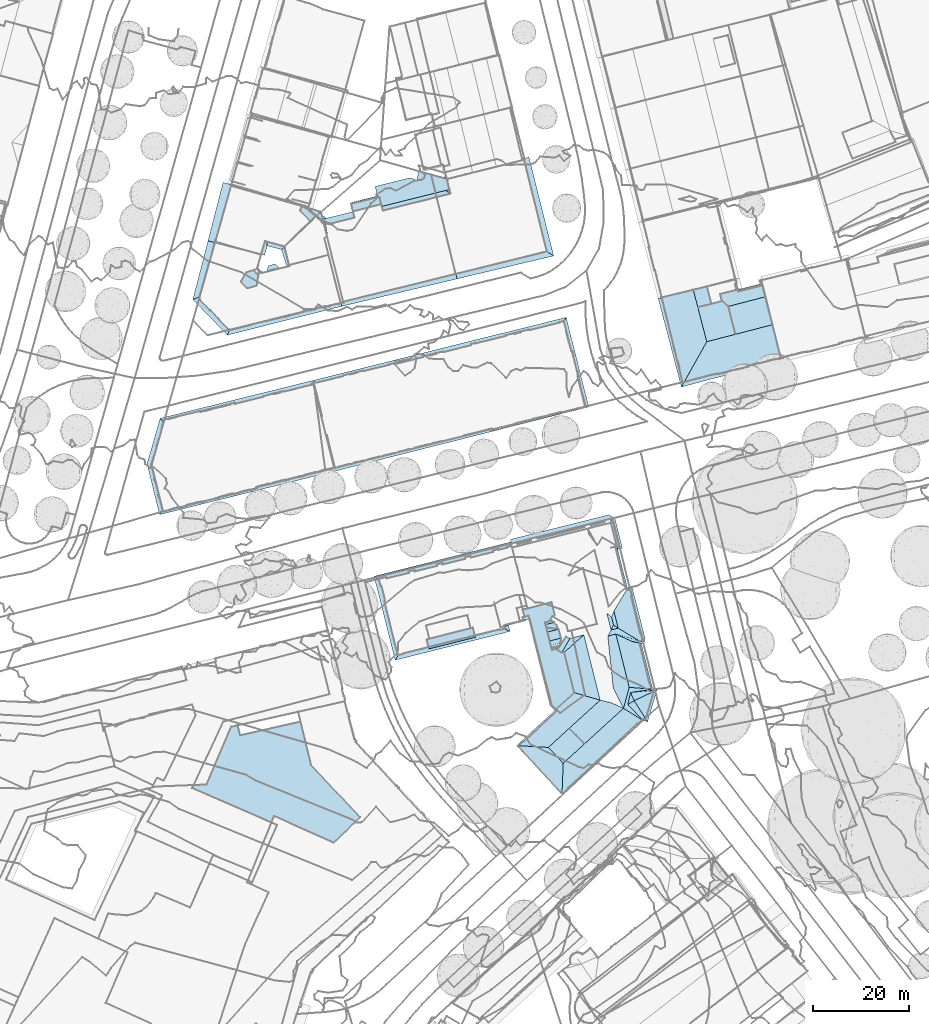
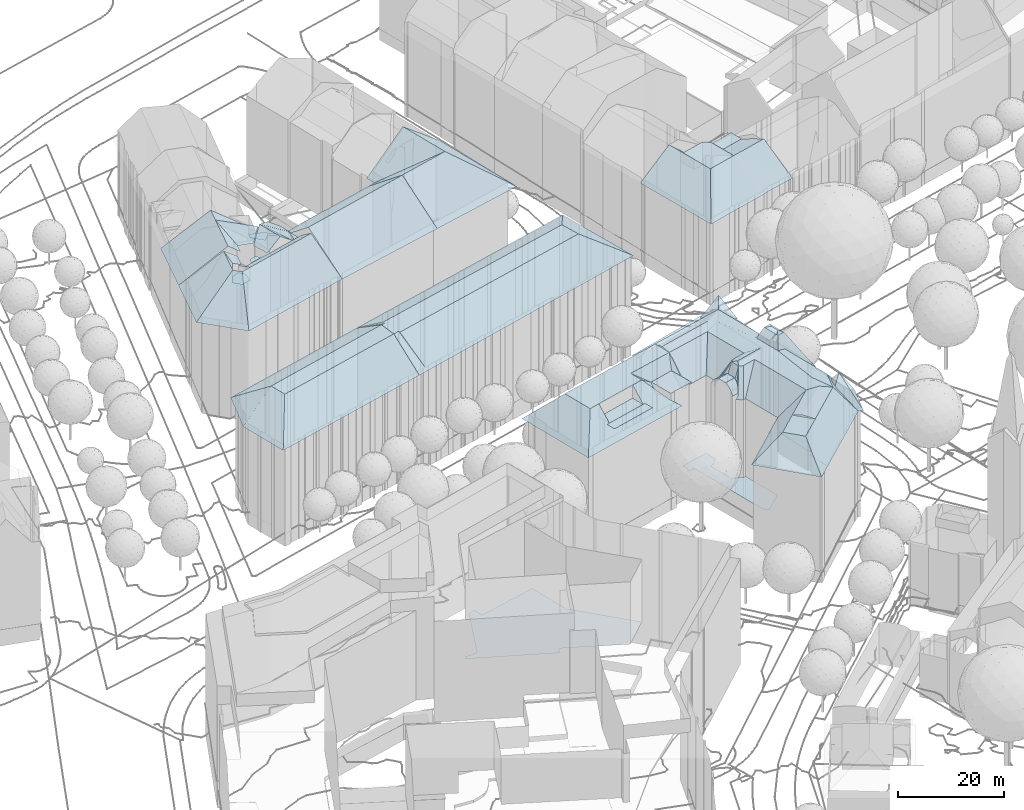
# Not in any storey, part 69 of 477: 16 roofs.
"""IFC4 building model written with IfcOpenShell, lengths in metres."""

from ifc_helpers import new_model, si_unit, frame, origin_with_axes, place, context, subcontext, project, spatial, polygons, element, save


model = new_model("IFC4")

# Units and contexts
model_context = context("Model", 3, precision=1e-05, world=origin_with_axes())
body_context = subcontext(model_context, "Body", "Model", "MODEL_VIEW")
ifc_project = project(units=[si_unit("AREAUNIT", "SQUARE_METRE"), si_unit("LENGTHUNIT", "METRE")], contexts=[model_context])

# Sites, building
site_1_placement = place(None, origin_with_axes())
site_1 = spatial("IfcSite", under=ifc_project, at=site_1_placement, Name="Topoexport Site")
site_2_placement = place(site_1_placement, origin_with_axes())
site_2 = spatial("IfcSite", under=site_1, at=site_2_placement, Name="TPX_BUILDINGS")
building_1_placement = place(site_2_placement, frame((-19.7342679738, 221.4617160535, 529.9572), z_axis=(0.0, 0.0, 1.0), x_axis=(1.0, 0.0, 0.0)))
building_1 = spatial("IfcBuilding", under=site_2, at=building_1_placement, Name="Building 139", CompositionType="ELEMENT")

# Roof
roof_1_placement = place(None, frame((-19.7342679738, 221.4617160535, 529.9572), z_axis=(0.0, 0.0, 1.0), x_axis=(1.0, 0.0, 0.0)))
element("IfcRoof", 1, at=roof_1_placement, inside=building_1, Name="Roof 10", context=body_context, shape_type="Tessellation", body=[
    polygons([(76.5700000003, 49.1963, 12.6718), (79.2180000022, 49.3017999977, 12.6718), (76.2760000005, 48.5654000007, 12.6718), (92.6770000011, 41.4179999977, 12.6717), (85.7230000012, 61.5859999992, 12.6718), (86.2050000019, 59.5146999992, 12.6718), (84.3440000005, 61.2782999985, 12.6718), (93.2239999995, 42.7812999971, 12.6717), (100.9539999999, 53.3720999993, 12.6717), (111.1070000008, 42.5205000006, 12.6717), (105.5940000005, 37.2460999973, 12.6717), (98.7540000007, 62.3506000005, 12.6718)], [[[3, 2, 1]], [[2, 3, 4]], [[7, 6, 5]], [[6, 7, 2]], [[2, 8, 6]], [[9, 6, 8]], [[8, 11, 10]], [[12, 6, 9]], [[10, 9, 8]], [[8, 2, 4]]]),
])

# Building
building_2_placement = place(site_2_placement, frame((124.1537320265, 278.7713160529, 533.7988), z_axis=(0.0, 0.0, 1.0), x_axis=(1.0, 0.0, 0.0)))
building_2 = spatial("IfcBuilding", under=site_2, at=building_2_placement, Name="Building 151", CompositionType="ELEMENT")

# Roofs
roof_2_placement = place(None, frame((124.1537320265, 278.7713160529, 533.7988), z_axis=(0.0, 0.0, 1.0), x_axis=(1.0, 0.0, 0.0)))
element("IfcRoof", 2, at=roof_2_placement, inside=building_2, Name="Roof 0", context=body_context, shape_type="Tessellation", body=[
    polygons([(19.1979999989, 24.0742000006, 32.8638), (18.3000000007, 27.6484000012, 32.8638), (19.3370000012, 26.6904000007, 33.2708), (19.7289999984, 25.123999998, 33.2708), (20.7019999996, 24.4521000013, 32.8638), (19.8040000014, 28.0253999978, 32.8638), (18.5320000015, 22.807599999, 30.2961), (20.2050000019, 23.2274999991, 29.9171), (19.6579999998, 12.1132999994, 30.2961), (22.9789999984, 12.1787, 29.9171), (21.7890000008, 7.8378999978, 29.9171), (22.7019999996, 8.6631000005, 29.2492), (25.8390000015, 5.3046999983, 24.4946), (9.0430000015, -10.009800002, 24.4946), (9.0610000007, -9.5331999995, 24.8946), (13.6950000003, 0.4580000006, 29.9171), (9.2870000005, -3.5615000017, 29.9171), (19.4120000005, 8.9433999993, 30.2961), (12.0219999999, 2.2080000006, 30.2961), (16.9589999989, 9.5351999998, 29.9171), (10.5749999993, 3.7197000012, 29.9171), (11.3390000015, 2.9228000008, 29.9171), (6.2129999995, -0.2675999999, 29.9171), (12.811999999, 1.3827999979, 29.9171), (0.0830000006, 0.0762000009, 24.8956), (-0.4070000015, 0.1035000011, 24.4946), (7.6840000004, 7.4794999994, 24.4946), (11.6229999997, 11.0702999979, 24.4946), (27.6339999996, 11.8183999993, 24.7686), (27.8819999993, 11.7998000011, 24.4946), (27.6830000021, 11.7705000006, 24.6986), (23.2470000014, 11.1142999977, 29.2492), (28.050999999, 11.6074000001, 25.1045), (28.7580000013, 11.6796999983, 24.4946), (24.8469999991, 21.9375, 26.4204), (25.3029999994, 21.7685999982, 25.7355), (23.7019999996, 21.6493999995, 26.4204), (26.1279999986, 21.4638999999, 24.4946), (25.4970000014, 21.3046999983, 24.4946), (25.1449999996, 21.3720999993, 24.8716), (25.8590000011, 22.1904000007, 25.0586), (26.2780000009, 22.2958999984, 24.4946), (24.0170000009, 9.4169999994, 31.5549), (28.1480000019, 11.3887000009, 25.4025), (26.4330000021, 5.5878999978, 25.4005), (26.7890000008, 5.0234000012, 24.4946), (22.2850000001, 32.1387000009, 26.4205), (8.313000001, 20.2421999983, 25.1776), (10.686999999, 22.3407999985, 29.9171), (8.9629999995, 19.3300999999, 24.4946), (9.8839999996, 22.6532999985, 29.9171), (7.7589999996, 20.1035000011, 24.4946), (13.5639999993, 23.0634999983, 29.9171), (9.5139999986, 19.4697000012, 24.4946), (23.2699999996, 32.6308999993, 25.0196), (23.6389999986, 32.8143999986, 24.4946)], [[[3, 2, 1]], [[1, 4, 3]], [[4, 5, 3]], [[6, 3, 5]], [[9, 8, 7]], [[1, 5, 4]], [[9, 11, 10]], [[10, 8, 9]], [[10, 11, 12]], [[15, 14, 13]], [[17, 15, 16]], [[13, 16, 15]], [[11, 16, 13]], [[19, 16, 18]], [[11, 18, 16]], [[21, 19, 20]], [[18, 20, 19]], [[21, 23, 22]], [[24, 23, 17]], [[22, 23, 24]], [[24, 17, 16]], [[25, 15, 23]], [[14, 25, 26]], [[15, 17, 23]], [[14, 15, 25]], [[28, 27, 20]], [[20, 27, 21]], [[25, 21, 27]], [[23, 21, 25]], [[25, 27, 26]], [[31, 30, 29]], [[10, 32, 31]], [[10, 31, 29]], [[34, 30, 33]], [[31, 32, 33]], [[31, 33, 30]], [[37, 36, 35]], [[36, 37, 38]], [[40, 39, 38]], [[40, 38, 37]], [[38, 42, 41]], [[41, 35, 36]], [[41, 36, 38]], [[43, 32, 12]], [[10, 12, 32]], [[32, 43, 44]], [[44, 34, 33]], [[44, 33, 32]], [[34, 44, 45]], [[45, 46, 34]], [[43, 45, 44]], [[45, 43, 13]], [[13, 46, 45]], [[13, 43, 12]], [[35, 5, 8]], [[35, 8, 37]], [[5, 35, 47]], [[47, 6, 5]], [[8, 1, 7]], [[8, 5, 1]], [[12, 11, 13]], [[50, 49, 48]], [[48, 49, 51]], [[52, 50, 48]], [[28, 20, 53]], [[53, 54, 28]], [[50, 54, 53]], [[53, 49, 50]], [[37, 8, 10]], [[40, 37, 29]], [[29, 39, 40]], [[30, 39, 29]], [[29, 37, 10]], [[41, 47, 35]], [[55, 41, 42]], [[55, 47, 41]], [[55, 42, 56]]]),
])
roof_3_placement = place(None, frame((124.1537320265, 278.7713160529, 533.7988), z_axis=(0.0, 0.0, 1.0), x_axis=(1.0, 0.0, 0.0)))
element("IfcRoof", 3, at=roof_3_placement, inside=building_2, Name="Roof 1", context=body_context, shape_type="Tessellation", body=[
    polygons([(-9.3900000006, 24.5234000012, 26.9644), (-18.5350000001, 20.1591999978, 26.9644), (-19.0229999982, 22.1044999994, 26.9644), (-8.9010000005, 22.5780999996, 26.9644)], [[[3, 2, 1]], [[2, 4, 1]]]),
])
roof_4_placement = place(None, frame((124.1537320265, 278.7713160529, 533.7988), z_axis=(0.0, 0.0, 1.0), x_axis=(1.0, 0.0, 0.0)))
element("IfcRoof", 4, at=roof_4_placement, inside=building_2, Name="Roof 2", context=body_context, shape_type="Tessellation", body=[
    polygons([(7.7589999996, 20.1035000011, 6.6973), (8.9629999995, 19.3300999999, 6.6973), (11.6229999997, 11.0702999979, 6.6973), (9.5139999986, 19.4697000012, 6.6973), (6.993999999, 19.9100999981, 6.6973), (6.9510000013, 8.4501999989, 6.6973), (7.8350000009, 7.6171999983, 6.6973), (2.381000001, 26.3975000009, 6.6973), (5.561999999, 25.6182000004, 6.6973), (6.9270000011, 29.7802999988, 6.6973), (6.3269999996, 25.8104999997, 6.6973), (7.5890000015, 27.1444999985, 6.6973), (7.0700000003, 26.8691000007, 6.6973), (0.9499999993, 28.2802999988, 6.6974), (1.0610000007, 26.1083999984, 6.6974), (1.3229999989, 26.7958999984, 6.6974), (0.9149999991, 26.6933000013, 6.6974)], [[[3, 2, 1]], [[2, 3, 4]], [[3, 1, 5]], [[7, 5, 6]], [[5, 7, 3]], [[8, 6, 5]], [[8, 5, 9]], [[11, 10, 9]], [[10, 13, 12]], [[8, 9, 10]], [[14, 8, 10]], [[8, 16, 15]], [[16, 17, 15]], [[8, 14, 16]], [[13, 10, 11]]]),
])
roof_5_placement = place(None, frame((124.1537320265, 278.7713160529, 533.7988), z_axis=(0.0, 0.0, 1.0), x_axis=(1.0, 0.0, 0.0)))
element("IfcRoof", 5, at=roof_5_placement, inside=building_2, Name="Roof 3", context=body_context, shape_type="Tessellation", body=[
    polygons([(6.5179999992, 21.808600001, 27.7623), (8.8500000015, 22.3935000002, 27.7623), (6.7340000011, 20.9452999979, 27.2494), (8.8220000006, 21.4697000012, 27.2004), (6.0500000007, 23.6708999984, 27.7623), (5.8379999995, 24.5194999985, 27.2494), (8.3839999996, 24.2577999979, 27.7623), (7.9239999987, 25.0429999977, 27.1874), (7.4180000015, 25.6347999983, 26.5364), (5.6689999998, 25.1904000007, 26.5364), (6.8839999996, 20.3486000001, 26.5364), (8.6400000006, 20.7793000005, 26.5364), (6.993999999, 19.9100999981, 25.6465), (8.313000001, 20.2421999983, 25.6465), (5.561999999, 25.6182000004, 25.6465), (6.8790000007, 25.9501999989, 25.6465)], [[[3, 2, 1]], [[2, 3, 4]], [[7, 6, 5]], [[2, 7, 5]], [[5, 1, 2]], [[6, 7, 8]], [[10, 8, 9]], [[8, 10, 6]], [[13, 12, 11]], [[12, 13, 14]], [[11, 4, 3]], [[4, 11, 12]], [[15, 10, 9]], [[9, 16, 15]]]),
])
roof_6_placement = place(None, frame((124.1537320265, 278.7713160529, 533.7988), z_axis=(0.0, 0.0, 1.0), x_axis=(1.0, 0.0, 0.0)))
element("IfcRoof", 6, at=roof_6_placement, inside=building_2, Name="Roof 4", context=body_context, shape_type="Tessellation", body=[
    polygons([(8.1119999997, 44.0018999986, 24.3817), (9.9750000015, 44.4668000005, 24.3937), (14.4530000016, 45.0850000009, 24.4947), (-1.680999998, 42.8544999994, 24.1297), (3.7679999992, 43.2606999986, 24.3047), (3.9180000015, 43.2850999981, 24.3067), (-1.5549999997, 42.3506000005, 24.2097), (-1.2520000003, 41.1444999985, 24.4947), (-1.4560000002, 41.9580000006, 24.3027), (-1.4910000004, 42.0966999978, 24.2697), (19.2250000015, 46.2841999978, 24.4947), (21.5700000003, 41.0507999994, 24.4946), (20.5989999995, 40.8154000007, 24.4946), (18.7969999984, 47.9941000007, 24.4947), (20.0249999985, 47.2050999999, 24.4947), (16.3480000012, 25.2978000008, 30.2961), (13.4299999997, 36.9188999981, 30.2961), (17.0989999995, 28.5106999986, 30.2961), (18.5320000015, 22.807599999, 30.2961), (19.6579999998, 12.1132999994, 30.2961), (13.5639999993, 23.0634999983, 29.9171), (16.9589999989, 9.5350999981, 29.9171), (19.4120000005, 8.9433000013, 30.2961), (21.7890000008, 7.8378999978, 29.9171), (15.8280000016, 40.6669999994, 29.9171), (18.7740000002, 28.9307000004, 29.9171), (11.8619999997, 37.8427999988, 30.2961), (10.4750000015, 35.365199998, 29.9171), (19.3370000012, 26.6904000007, 33.2708), (18.3000000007, 27.6484000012, 32.8638), (19.8040000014, 28.0253999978, 32.8638), (12.868999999, 25.8339999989, 29.9171), (10.324000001, 23.7841999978, 30.2961), (9.9919999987, 25.1123000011, 29.9171), (0.3049999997, 34.9404000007, 30.2961), (0.7890000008, 33.0155999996, 29.9601), (-0.1460000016, 36.7382999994, 29.9601), (10.686999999, 22.3407999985, 29.9171), (9.8839999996, 22.6532999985, 29.9171), (9.4169999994, 24.5155999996, 29.9171), (-9.8599999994, 24.4043000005, 26.9644), (-18.4299999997, 22.254900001, 26.9644), (-9.9059999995, 24.5859000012, 26.9664), (-10.5449999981, 27.1387000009, 26.9974), (-18.4759999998, 22.436499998, 26.9664), (-19.1160000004, 24.9853000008, 26.9974), (-8.2509999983, 27.7148000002, 30.0041), (-8.9860000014, 30.6435000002, 30.0041), (-5.0020000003, 29.8856999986, 27.0404), (-2.7980000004, 24.8671999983, 24.8196), (-2.9160000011, 24.3007999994, 25.0326), (-3.6860000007, 24.6444999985, 25.5945), (-2.0669999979, 25.0507999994, 24.1807), (-1.7479999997, 23.7793000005, 24.1807), (-23.0260000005, 31.0751999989, 30.0042), (-24.9140000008, 18.8350000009, 25.0916), (-28.8869999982, 34.5888999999, 25.0726), (-29.9470000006, 35.2236000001, 24.1807), (-25.5729999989, 17.7998000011, 24.1807), (-21.3559999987, 24.4248000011, 30.0041), (-5.2210000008, 40.4257999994, 25.1986), (-4.8819999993, 40.6035000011, 25.1076), (-5.9979999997, 40.0175999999, 25.4086), (0.2179999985, 31.1952999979, 27.0624), (0.9499999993, 28.2802999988, 27.1294), (-4.682, 28.6094000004, 27.1294), (1.5340000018, 25.9540999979, 27.1294), (-3.6860000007, 24.6444999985, 27.1294), (0.2679999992, 30.9970999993, 26.8674), (1.9149999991, 28.5234000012, 24.1807), (0.9499999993, 28.2802999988, 24.1807), (0.1629999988, 35.5067999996, 29.9901), (0.3049999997, 34.9404000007, 30.0041), (-1.4560000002, 41.9580000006, 24.6117), (0.4569999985, 34.3330000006, 29.9901), (-10.5449999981, 27.1387000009, 30.0041), (-19.1160000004, 24.9853000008, 30.0041), (19.1979999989, 24.0742000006, 32.8638), (22.2850000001, 32.1387000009, 26.4205), (21.1400000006, 31.8506000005, 26.4205), (22.2650000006, 32.7509999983, 24.8986), (22.563000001, 32.990199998, 24.4946), (23.1849999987, 33.1473999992, 24.4946), (23.6389999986, 32.8143999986, 24.4946), (16.3949999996, 41.6054999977, 29.0102), (-0.3790000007, 37.6649999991, 28.8113), (14.7320000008, 43.9774999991, 25.8355), (15.2239999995, 43.2753999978, 26.7754), (7.5890000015, 27.1444999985, 24.4946), (7.0700000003, 26.8691000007, 24.4946), (6.9270000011, 29.7802999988, 24.4946), (1.9149999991, 28.5234000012, 24.4947), (7.4180000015, 25.6347999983, 26.1375), (6.8790000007, 25.9501999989, 25.1066), (6.3269999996, 25.8104999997, 24.4946), (8.6090000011, 23.3544999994, 27.7623), (8.3839999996, 24.2577999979, 27.2494), (7.9239999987, 25.0429999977, 27.1874), (8.8500000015, 22.3935000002, 27.2494), (8.8220000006, 21.4697000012, 27.2004), (8.6400000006, 20.7793000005, 26.2145), (-4.682, 28.6094000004, 25.3176), (-4.9670000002, 29.7441000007, 26.8504), (1.506000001, 30.1543000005, 26.2785), (14.7320000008, 43.9774999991, 26.1195), (17.379999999, 43.2344000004, 31.147), (14.4530000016, 45.0848999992, 25.7355), (20.4450000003, 41.4248000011, 25.7515), (19.069000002, 41.0780999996, 26.1455), (19.2250000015, 46.2841999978, 25.7355), (19.2870000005, 41.1338, 25.8835), (20.4450000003, 41.4248000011, 24.4946)], [[[3, 2, 1]], [[1, 2, 4]], [[6, 4, 5]], [[4, 6, 1]], [[7, 5, 4]], [[9, 8, 6]], [[7, 10, 5]], [[9, 5, 10]], [[1, 6, 8]], [[6, 5, 9]], [[1, 8, 3]], [[13, 12, 11]], [[15, 14, 11]], [[3, 11, 14]], [[15, 11, 12]], [[3, 14, 2]], [[4, 2, 14]], [[18, 17, 16]], [[16, 20, 19]], [[16, 19, 18]], [[16, 21, 20]], [[22, 20, 21]], [[20, 22, 23]], [[24, 20, 23]], [[26, 25, 17]], [[26, 17, 18]], [[25, 27, 17]], [[28, 17, 27]], [[31, 30, 29]], [[34, 33, 32]], [[16, 32, 33]], [[32, 16, 17]], [[17, 28, 32]], [[36, 27, 35]], [[27, 36, 28]], [[35, 25, 37]], [[25, 35, 27]], [[21, 16, 33]], [[33, 38, 21]], [[38, 33, 39]], [[40, 39, 33]], [[33, 34, 40]], [[43, 42, 41]], [[45, 43, 44]], [[45, 42, 43]], [[45, 44, 46]], [[49, 48, 47]], [[52, 51, 50]], [[50, 54, 53]], [[54, 50, 51]], [[57, 56, 55]], [[59, 57, 58]], [[56, 60, 55]], [[59, 56, 57]], [[62, 58, 61]], [[58, 62, 7]], [[58, 57, 63]], [[55, 63, 57]], [[58, 63, 61]], [[49, 65, 64]], [[65, 49, 66]], [[66, 67, 65]], [[66, 68, 67]], [[71, 70, 69]], [[64, 69, 70]], [[37, 55, 72]], [[73, 72, 55]], [[63, 55, 37]], [[61, 63, 37]], [[62, 37, 74]], [[37, 62, 61]], [[74, 7, 62]], [[73, 55, 75]], [[36, 75, 55]], [[36, 55, 48]], [[47, 48, 76]], [[76, 48, 55]], [[77, 55, 60]], [[55, 77, 76]], [[30, 18, 19]], [[19, 78, 30]], [[30, 26, 18]], [[31, 26, 30]], [[31, 79, 26]], [[26, 79, 80]], [[83, 82, 81]], [[83, 80, 79]], [[80, 83, 81]], [[84, 83, 79]], [[85, 37, 25]], [[37, 85, 86]], [[8, 86, 85]], [[3, 8, 87]], [[8, 88, 87]], [[8, 85, 88]], [[32, 89, 34]], [[90, 34, 89]], [[89, 32, 91]], [[28, 91, 32]], [[92, 28, 36]], [[28, 92, 91]], [[34, 94, 93]], [[34, 93, 40]], [[90, 95, 94]], [[34, 90, 94]], [[96, 39, 40]], [[40, 97, 96]], [[40, 98, 97]], [[40, 93, 98]], [[100, 39, 99]], [[99, 39, 96]], [[101, 39, 100]], [[47, 52, 102]], [[49, 47, 103]], [[102, 103, 47]], [[64, 48, 49]], [[70, 104, 64]], [[36, 64, 104]], [[36, 48, 64]], [[85, 106, 105]], [[107, 105, 106]], [[109, 108, 106]], [[106, 85, 109]], [[106, 110, 107]], [[110, 106, 108]], [[80, 85, 25]], [[85, 80, 109]], [[80, 25, 26]], [[80, 81, 111]], [[112, 81, 82]], [[112, 111, 81]], [[111, 109, 80]], [[56, 59, 42]], [[60, 42, 77]], [[42, 60, 56]], [[59, 54, 42]], [[41, 54, 51]], [[54, 41, 42]], [[41, 51, 52]], [[41, 47, 76]], [[47, 41, 52]]]),
])

# Building
building_3_placement = place(site_2_placement, frame((81.7547320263, 354.0350160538, 535.8227), z_axis=(0.0, 0.0, 1.0), x_axis=(1.0, 0.0, 0.0)))
building_3 = spatial("IfcBuilding", under=site_2, at=building_3_placement, Name="Building 164", CompositionType="ELEMENT")

# Roof
roof_7_placement = place(None, frame((81.7547320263, 354.0350160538, 535.8227), z_axis=(0.0, 0.0, 1.0), x_axis=(1.0, 0.0, 0.0)))
element("IfcRoof", 7, at=roof_7_placement, inside=building_3, Name="Roof 0", context=body_context, shape_type="Tessellation", body=[
    polygons([(0.9459999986, -7.1202000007, 27.7703), (1.6660000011, -6.5508000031, 27.4574), (1.7089999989, -6.6963, 27.5714), (1.7730000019, -6.9131000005, 27.7423), (0.063000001, 0.0155999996, 23.0608), (0.0, 0.0, 23.0658), (-0.0789999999, 0.5956999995, 22.6718), (0.9660000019, -3.6856000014, 25.5386), (2.6779999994, -10.5811000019, 27.7703), (1.6660000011, -6.5508000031, 27.7913), (46.7309999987, 4.2753999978, 27.7913), (2.7639999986, -10.9317000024, 27.7403), (47.9070000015, 0.128899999, 27.7913), (1.4459999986, -10.8868000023, 27.7703), (2.7639999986, -10.9317000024, 27.5733), (1.4919999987, -11.2305000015, 27.5813), (8.3570000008, -16.6045000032, 23.1038), (4.4270000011, -17.6055000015, 23.0748), (8.7360000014, -16.4444000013, 23.1488), (8.2080000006, -16.6670000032, 23.0868), (4.5760000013, -18.2041000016, 22.6558), (57.0040000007, -4.9356000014, 22.6888), (56.307, -4.5469000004, 23.0797), (2.3880000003, -17.9776000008, 23.1418), (2.4140000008, -18.1700000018, 23.0148), (4.4270000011, -17.6055000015, 23.0608), (2.4869999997, -18.7217000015, 22.6558), (56.2320000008, -4.2432000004, 23.0717), (52.3139999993, 13.6590999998, 22.4308), (51.8110000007, 12.8134000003, 22.9138), (4.1270000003, 0.9266999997, 23.1318), (0.063000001, 0.0155999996, 23.0878)], [[[3, 2, 1]], [[1, 4, 3]], [[7, 6, 5]], [[5, 6, 1]], [[8, 1, 2]], [[1, 8, 5]], [[1, 9, 4]], [[11, 10, 4]], [[9, 11, 4]], [[13, 9, 12]], [[11, 9, 13]], [[9, 1, 14]], [[14, 16, 15]], [[15, 9, 14]], [[19, 18, 17]], [[12, 19, 13]], [[17, 18, 20]], [[18, 19, 12]], [[18, 21, 20]], [[20, 22, 17]], [[22, 20, 21]], [[22, 23, 19]], [[13, 19, 23]], [[22, 19, 17]], [[25, 21, 24]], [[24, 21, 26]], [[26, 16, 24]], [[16, 26, 15]], [[21, 25, 27]], [[23, 22, 28]], [[11, 13, 23]], [[11, 23, 28]], [[28, 22, 29]], [[28, 30, 11]], [[30, 28, 29]], [[7, 32, 31]], [[10, 11, 31]], [[10, 31, 32]], [[30, 29, 31]], [[31, 11, 30]], [[7, 31, 29]]]),
])

# Building
building_4_placement = place(site_2_placement, frame((48.0647320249, 337.0857160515, 535.8227), z_axis=(0.0, 0.0, 1.0), x_axis=(1.0, 0.0, 0.0)))
building_4 = spatial("IfcBuilding", under=site_2, at=building_4_placement, Name="Building 165", CompositionType="ELEMENT")

# Roof
roof_8_placement = place(None, frame((48.0647320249, 337.0857160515, 535.8227), z_axis=(0.0, 0.0, 1.0), x_axis=(1.0, 0.0, 0.0)))
element("IfcRoof", 8, at=roof_8_placement, inside=building_4, Name="Roof 0", context=body_context, shape_type="Tessellation", body=[
    polygons([(6.6359999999, 2.8057000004, 27.7604), (34.6359999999, 9.8291000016, 27.7703), (35.1359999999, 6.0625, 27.7703), (7.5230000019, -0.7762999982, 27.7603), (35.182, 5.7188000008, 27.5813), (35.3420000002, -1.2089000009, 23.1418), (36.0780000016, -1.0282999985, 23.1418), (36.1040000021, -1.2206999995, 23.0148), (36.1770000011, -1.7723999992, 22.6558), (1.6710000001, -10.3192999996, 22.6558), (2.3170000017, -9.2655999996, 23.2188), (-0.9379999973, 0.2188000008, 22.6558), (0.1730000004, 0.5976999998, 23.4048), (1.7990000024, 9.6680000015, 22.6559), (2.4480000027, 8.7470999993, 23.3408), (30.6700000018, 15.9375, 23.2268), (33.6110000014, 17.5450000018, 22.6718), (33.6900000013, 16.9493000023, 23.0658)], [[[3, 2, 1]], [[1, 4, 3]], [[3, 4, 5]], [[7, 5, 6]], [[6, 8, 7]], [[4, 6, 5]], [[11, 10, 9]], [[4, 11, 6]], [[6, 9, 8]], [[9, 6, 11]], [[10, 11, 12]], [[12, 11, 13]], [[13, 4, 1]], [[4, 13, 11]], [[15, 14, 12]], [[15, 13, 1]], [[13, 15, 12]], [[16, 1, 2]], [[18, 17, 16]], [[2, 18, 16]], [[16, 17, 14]], [[16, 15, 1]], [[15, 16, 14]]]),
])

# Building
building_5_placement = place(site_2_placement, frame((153.8417320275, 371.7576160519, 556.9797), z_axis=(0.0, 0.0, 1.0), x_axis=(1.0, 0.0, 0.0)))
building_5 = spatial("IfcBuilding", under=site_2, at=building_5_placement, Name="Building 166", CompositionType="ELEMENT")

# Roof
roof_9_placement = place(None, frame((153.8417320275, 371.7576160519, 556.9797), z_axis=(0.0, 0.0, 1.0), x_axis=(1.0, 0.0, 0.0)))
element("IfcRoof", 9, at=roof_9_placement, inside=building_5, Name="Roof 0", context=body_context, shape_type="Tessellation", body=[
    polygons([(4.6579999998, -17.5390000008, 0.0459), (7.5309999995, -2.0311999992, 4.7085), (9.373999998, -9.1317999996, 4.7085), (4.1059999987, -18.5223999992, -0.5), (4.3209999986, -17.4882999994, -0.1731), (10.9639999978, -15.9237999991, 0.0429), (11.1359999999, -16.6561999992, -0.4601), (13.8509999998, -1.8016999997, 4.7085), (15.3509999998, -7.5819999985, 4.7085), (12.5519999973, -0.7265000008, 4.7045), (10.381000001, -1.2910000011, 4.6965), (6.5949999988, 1.5811000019, 4.7085), (3.5769999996, 0.8720999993, 2.5607), (0.0, 0.0, -0.0001), (-0.699000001, -0.1708999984, -0.5), (7.7419999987, -1.9756000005, 4.5075), (8.9199999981, 2.1757999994, 2.4957), (9.4499999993, 2.3037, 1.9937), (10.381000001, -1.2910000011, 1.9937), (23.0189999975, -5.5918000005, 4.6685), (23.1359999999, -6.0790999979, 4.3735), (24.7939999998, -12.6220000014, -0.1531), (24.9269999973, -13.1220000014, -0.5001), (24.1449999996, -12.6699000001, -0.0751), (18.5460000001, -14.7030999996, -0.4161), (18.2859999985, -14.1229999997, 0.0009), (17.7139999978, -14.4266999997, -0.1461), (17.8859999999, -14.9266999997, -0.5001), (22.2689999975, -2.6387000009, 3.1566), (15.2520000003, -7.2021000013, 4.5085), (21.5390000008, 0.1933999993, 1.6688), (13.8509999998, -1.8016999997, 1.6688), (15.5659999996, 1.6015999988, 1.6688), (12.5519999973, -0.7265000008, 1.6688), (12.1769999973, 0.7177999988, 1.6688), (15.9199999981, 1.6953000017, 1.6688), (20.8440000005, 2.9649000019, 1.6688), (16.9919999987, -15.1699000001, -0.5001), (15.9250000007, -14.8720999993, -0.1331), (15.9690000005, -15.4237999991, -0.5001), (14.9120000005, -15.061499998, -0.0901), (14.875, -15.7021000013, -0.5001), (13.7579999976, -15.9970999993, -0.5001), (13.4289999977, -15.4891999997, -0.1141), (12.430999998, -15.7313999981, -0.1051), (12.682, -16.2723999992, -0.5001), (11.5789999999, -15.7714999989, 0.0029), (11.8139999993, -16.4803999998, -0.5001)], [[[3, 2, 1]], [[1, 5, 4]], [[5, 1, 2]], [[6, 3, 1]], [[6, 4, 7]], [[4, 6, 1]], [[8, 2, 3]], [[3, 9, 8]], [[11, 8, 10]], [[2, 8, 11]], [[13, 2, 12]], [[14, 5, 13]], [[5, 14, 15]], [[13, 5, 2]], [[5, 15, 4]], [[2, 16, 12]], [[12, 16, 17]], [[17, 19, 18]], [[19, 17, 16]], [[9, 21, 20]], [[21, 9, 22]], [[24, 23, 22]], [[24, 22, 9]], [[23, 24, 25]], [[26, 25, 24]], [[9, 26, 24]], [[26, 9, 27]], [[28, 25, 26]], [[28, 26, 27]], [[30, 9, 29]], [[32, 29, 31]], [[29, 32, 30]], [[29, 9, 20]], [[34, 32, 33]], [[33, 35, 34]], [[32, 36, 33]], [[31, 37, 36]], [[31, 36, 32]], [[27, 9, 38]], [[27, 38, 28]], [[38, 9, 39]], [[40, 38, 39]], [[39, 9, 41]], [[42, 40, 39]], [[42, 39, 41]], [[41, 9, 43]], [[43, 42, 41]], [[9, 3, 44]], [[9, 44, 43]], [[46, 43, 45]], [[44, 3, 45]], [[44, 45, 43]], [[48, 46, 47]], [[45, 3, 47]], [[45, 47, 46]], [[7, 48, 6]], [[47, 3, 6]], [[47, 6, 48]]]),
])

# Building
building_6_placement = place(site_2_placement, frame((57.9967320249, 371.6443160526, 536.9447), z_axis=(0.0, 0.0, 1.0), x_axis=(1.0, 0.0, 0.0)))
building_6 = spatial("IfcBuilding", under=site_2, at=building_6_placement, Name="Building 212", CompositionType="ELEMENT")

# Roofs
roof_10_placement = place(None, frame((57.9967320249, 371.6443160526, 536.9447), z_axis=(0.0, 0.0, 1.0), x_axis=(1.0, 0.0, 0.0)))
element("IfcRoof", 10, at=roof_10_placement, inside=building_6, Name="Roof 0", context=body_context, shape_type="Tessellation", body=[
    polygons([(12.2690000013, 4.7159000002, 24.7896), (9.7270000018, 5.3339999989, 24.7896), (11.3289999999, 5.8291000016, 24.7896), (9.9340000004, 2.0507999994, 24.7896), (11.9160000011, 2.5518000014, 24.7896), (8.6410000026, 3.3907000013, 24.7896)], [[[3, 2, 1]], [[1, 2, 4]], [[1, 4, 5]], [[4, 2, 6]]]),
])
roof_11_placement = place(None, frame((57.9967320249, 371.6443160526, 536.9447), z_axis=(0.0, 0.0, 1.0), x_axis=(1.0, 0.0, 0.0)))
element("IfcRoof", 11, at=roof_11_placement, inside=building_6, Name="Roof 1", context=body_context, shape_type="Tessellation", body=[
    polygons([(25.9670000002, 12.4228999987, 25.1105), (24.7370000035, 8.4101999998, 25.7785), (19.9760000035, 12.9941999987, 28.5112), (24.6350000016, 8.3847999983, 25.8615), (21.387000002, 7.5507999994, 28.5112), (24.3900000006, 8.3213, 26.0614), (17.0290000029, 10.0976999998, 26.3584), (18.0710000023, 6.6992999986, 26.3584), (26.8340000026, 8.9472999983, 25.1105), (25.444000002, 8.5918000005, 25.1105), (2.9260000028, 10.4776000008, 22.5348), (1.7850000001, 11.8925999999, 21.4899), (3.1610000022, 11.5390999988, 22.5048), (10.2950000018, 9.7071000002, 27.7683), (8.6410000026, 3.3907000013, 27.7683), (0.0340000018, 0.253899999, 22.3428), (-1.362999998, -0.2547999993, 21.4619), (16.5360000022, 6.3046999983, 26.1434), (11.9160000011, 2.5518000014, 27.7683), (13.8440000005, 5.4277999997, 26.2604), (13.9940000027, 5.6513999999, 26.1434), (17.5560000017, 6.3526000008, 26.2044), (18.0710000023, 6.6992999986, 26.0614), (11.3289999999, 5.8291000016, 26.6584), (9.7270000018, 5.3339999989, 27.7683), (11.7240000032, 5.9521999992, 26.3844), (12.6400000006, 8.4307000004, 26.1734), (12.0130000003, 6.0410999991, 26.1844), (12.9420000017, 9.0293000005, 26.0614), (12.1900000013, 6.0967000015, 26.0614), (12.1180000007, 6.0742999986, 26.1114), (25.1810000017, 16.3213, 24.7406), (23.007000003, 15.9726999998, 26.0904), (24.2340000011, 17.1777999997, 25.1105), (26.1160000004, 14.4688000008, 24.5856), (26.1920000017, 15.5069000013, 24.3186), (27.4590000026, 6.4677999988, 27.7683), (9.9340000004, 2.0507999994, 27.7683), (6.2540000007, -6.566399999, 22.1728), (5.7870000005, -7.6601000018, 21.4619), (29.5240000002, -1.6787, 21.4509), (29.3720000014, -1.0800000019, 21.9158), (15.6740000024, 7.1152999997, 26.2244), (14.3340000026, 6.7509999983, 26.2244), (12.8380000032, 5.3555000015, 26.0854), (12.2690000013, 4.7159000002, 26.3864), (12.3200000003, 5.0342000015, 26.1854), (12.3510000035, 5.2305000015, 26.0614), (11.1620000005, 9.4853999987, 27.2083), (27.2670000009, 7.2217000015, 27.2483), (24.1450000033, 8.2588, 26.0614), (26.8340000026, 8.9472999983, 26.0614), (11.4360000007, 5.8623000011, 26.3844), (12.3510000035, 5.2305000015, 26.3844), (11.3289999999, 5.8291000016, 26.3844), (12.1900000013, 6.0967000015, 26.3844), (26.5090000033, 12.8779999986, 24.4796), (26.6469999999, 12.9941999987, 24.3186)], [[[3, 2, 1]], [[4, 2, 3]], [[6, 3, 5]], [[3, 6, 4]], [[7, 5, 3]], [[8, 5, 7]], [[1, 10, 9]], [[1, 2, 10]], [[13, 12, 11]], [[11, 15, 14]], [[11, 14, 13]], [[11, 12, 16]], [[11, 16, 15]], [[16, 12, 17]], [[20, 19, 18]], [[20, 18, 21]], [[18, 19, 22]], [[18, 22, 23]], [[14, 25, 24]], [[14, 15, 25]], [[27, 24, 26]], [[27, 26, 28]], [[30, 29, 27]], [[31, 27, 28]], [[27, 31, 30]], [[34, 33, 32]], [[33, 3, 1]], [[35, 32, 33]], [[36, 32, 35]], [[35, 33, 1]], [[22, 19, 37]], [[23, 22, 37]], [[39, 19, 38]], [[41, 39, 40]], [[42, 19, 39]], [[37, 19, 42]], [[42, 39, 41]], [[38, 15, 39]], [[39, 15, 16]], [[40, 39, 16]], [[40, 16, 17]], [[44, 21, 43]], [[18, 43, 21]], [[46, 19, 45]], [[47, 46, 45]], [[20, 21, 45]], [[48, 47, 45]], [[45, 19, 20]], [[49, 14, 24]], [[29, 49, 27]], [[24, 27, 49]], [[51, 50, 6]], [[51, 23, 37]], [[52, 6, 50]], [[50, 51, 37]], [[54, 26, 53]], [[53, 55, 54]], [[54, 56, 26]], [[55, 46, 54]], [[1, 57, 35]], [[58, 36, 35]], [[58, 35, 57]]]),
])

# Building
building_7_placement = place(site_2_placement, frame((83.9137320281, 386.9188160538, 537.2696), z_axis=(0.0, 0.0, 1.0), x_axis=(1.0, 0.0, 0.0)))
building_7 = spatial("IfcBuilding", under=site_2, at=building_7_placement, Name="Building 214", CompositionType="ELEMENT")

# Roofs
roof_12_placement = place(None, frame((83.9137320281, 386.9188160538, 537.2696), z_axis=(0.0, 0.0, 1.0), x_axis=(1.0, 0.0, 0.0)))
element("IfcRoof", 12, at=roof_12_placement, inside=building_7, Name="Roof 0", context=body_context, shape_type="Tessellation", body=[
    polygons([(6.4389999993, -15.4170000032, 21.7629), (1.5409999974, -8.8067000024, 27.8053), (25.930999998, -4.8438000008, 26.1495), (25.2449999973, -2.0664000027, 28.4233), (3.4549999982, -16.3545000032, 21.6169), (3.606999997, -16.9532000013, 21.126), (1.3499999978, -8.0527999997, 28.4233), (27.5169999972, -11.2637000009, 20.887), (27.2709999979, -10.2675999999, 21.7039), (0.9169999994, -6.327200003, 27.0304), (25.1119999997, -1.5293000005, 27.9903), (0.049999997, -2.8516000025, 24.2307), (24.8449999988, -0.447300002, 27.1194), (5.4589999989, 1.2001999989, 22.1719), (0.2199999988, -0.8887000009, 22.7658), (0.3019999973, 0.0711999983, 22.0509), (24.5249999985, 0.8495999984, 26.0695), (0.4079999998, 1.2928999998, 21.139), (5.9739999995, 2.6854999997, 21.156), (5.9039999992, 2.691399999, 21.139), (24.3809999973, 1.431599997, 25.6055), (-0.7360000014, 1.0467999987, 21.139), (5.9689999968, 2.7069999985, 21.139), (11.8289999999, 4.1747999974, 21.1391), (23.3349999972, 5.6668999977, 22.194), (23.0109999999, 6.9754999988, 21.1391)], [[[3, 2, 1]], [[2, 3, 4]], [[2, 5, 1]], [[6, 1, 5]], [[4, 7, 2]], [[1, 6, 8]], [[1, 9, 3]], [[9, 1, 8]], [[4, 11, 10]], [[10, 7, 4]], [[11, 13, 12]], [[12, 10, 11]], [[15, 12, 14]], [[16, 15, 14]], [[13, 17, 14]], [[18, 16, 14]], [[14, 12, 13]], [[20, 18, 19]], [[19, 18, 14]], [[14, 21, 19]], [[21, 14, 17]], [[18, 22, 16]], [[22, 15, 16]], [[15, 22, 12]], [[20, 19, 23]], [[23, 19, 24]], [[24, 21, 25]], [[21, 24, 19]], [[25, 26, 24]]]),
])
roof_13_placement = place(None, frame((83.9137320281, 386.9188160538, 537.2696), z_axis=(0.0, 0.0, 1.0), x_axis=(1.0, 0.0, 0.0)))
element("IfcRoof", 13, at=roof_13_placement, inside=building_7, Name="Roof 1", context=body_context, shape_type="Tessellation", body=[
    polygons([(5.932, 2.2597000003, 6.0284), (5.3619999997, 4.5350999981, 6.0285), (5.9689999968, 2.7069999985, 6.0284), (6.0689999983, 2.2938999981, 6.0284), (11.8299999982, 4.1747999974, 6.0285), (11.0079999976, 5.9491999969, 6.0285), (25.8699999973, 7.6717999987, 6.0285), (17.7709999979, 9.7274999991, 6.0285), (19.1459999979, 9.2176999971, 6.0285), (10.5169999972, 7.9111000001, 6.0285), (19.6329999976, 11.0418999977, 6.0285), (24.5009999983, 9.7060000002, 6.0285), (25.4780000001, 9.245099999, 6.0285), (19.5639999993, 11.0243999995, 6.0285), (11.9329999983, 3.7625999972, 6.0284), (25.9689999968, 7.2782999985, 6.0285), (25.305999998, 9.9305999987, 6.0285)], [[[3, 2, 1]], [[3, 1, 4]], [[7, 6, 5]], [[2, 3, 6]], [[6, 3, 5]], [[10, 9, 8]], [[9, 10, 6]], [[9, 12, 11]], [[13, 12, 9]], [[14, 9, 11]], [[7, 9, 6]], [[5, 15, 7]], [[16, 7, 15]], [[13, 9, 7]], [[17, 12, 13]]]),
])

# Building
building_8_placement = place(site_2_placement, frame((61.1577320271, 383.1834160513, 537.3186), z_axis=(0.0, 0.0, 1.0), x_axis=(1.0, 0.0, 0.0)))
building_8 = spatial("IfcBuilding", under=site_2, at=building_8_placement, Name="Building 217", CompositionType="ELEMENT")

# Roofs
roof_14_placement = place(None, frame((61.1577320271, 383.1834160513, 537.3186), z_axis=(0.0, 0.0, 1.0), x_axis=(1.0, 0.0, 0.0)))
element("IfcRoof", 14, at=roof_14_placement, inside=building_8, Name="Roof 0", context=body_context, shape_type="Tessellation", body=[
    polygons([(22.0199999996, 4.7822000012, 21.5359), (21.0729999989, 5.6387000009, 21.5359), (23.1640000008, 5.0283000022, 21.5359), (20.6559999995, 7.0175999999, 21.5359), (19.8460000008, 4.433600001, 21.5359), (17.8000000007, 6.6201000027, 21.5359), (18.0940000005, 7.7627000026, 21.5361)], [[[3, 2, 1]], [[2, 3, 4]], [[2, 6, 5]], [[2, 7, 6]], [[7, 2, 4]]]),
])
roof_15_placement = place(None, frame((61.1577320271, 383.1834160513, 537.3186), z_axis=(0.0, 0.0, 1.0), x_axis=(1.0, 0.0, 0.0)))
element("IfcRoof", 15, at=roof_15_placement, inside=building_8, Name="Roof 1", context=body_context, shape_type="Tessellation", body=[
    polygons([(8.0009999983, -2.0537, 28.3173), (7.1339999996, -1.8319999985, 27.6524), (10.2159999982, 6.567400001, 28.3173), (0.0, 0.0, 22.1729), (-1.376000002, 0.3535000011, 21.116), (0.5269999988, 1.3729999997, 22.2979), (10.8880000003, -0.682599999, 26.5495), (9.6579999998, -2.4784999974, 27.0854), (10.8110000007, 0.1523000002, 26.7534), (10.3790000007, -2.6640999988, 26.5495), (13.4659999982, -0.5595999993, 26.7444), (16.0659999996, 0.7206999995, 28.3173), (14.4859999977, -0.8339999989, 27.0464), (13.8680000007, -1.441399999, 26.5495), (18.0940000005, 7.7627000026, 23.3749), (13.2190000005, 9.1807000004, 26.7956), (17.8000000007, 6.6201000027, 23.3748), (19.8460000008, 4.433600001, 23.3748), (16.8150000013, 1.4550999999, 27.3394), (3.4290000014, 11.7187000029, 22.495), (2.7459999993, 12.2236000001, 21.915), (3.5099999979, 12.001000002, 22.504), (11.0500000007, 9.8115000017, 28.3194), (1.7479999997, 12.5155999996, 21.1431)], [[[3, 2, 1]], [[2, 3, 4]], [[6, 5, 4]], [[6, 4, 3]], [[9, 8, 7]], [[1, 9, 3]], [[8, 10, 7]], [[1, 8, 9]], [[13, 12, 11]], [[11, 14, 13]], [[3, 11, 12]], [[14, 11, 9]], [[9, 7, 14]], [[3, 9, 11]], [[16, 3, 15]], [[17, 15, 3]], [[3, 18, 17]], [[3, 12, 19]], [[18, 3, 19]], [[21, 5, 20]], [[21, 20, 22]], [[23, 22, 20]], [[5, 21, 24]], [[20, 3, 23]], [[3, 16, 23]], [[5, 6, 20]], [[3, 20, 6]]]),
])

# Building
building_9_placement = place(site_2_placement, frame((107.2487320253, 392.5857160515, 537.2697), z_axis=(0.0, 0.0, 1.0), x_axis=(1.0, 0.0, 0.0)))
building_9 = spatial("IfcBuilding", under=site_2, at=building_9_placement, Name="Building 220", CompositionType="ELEMENT")

# Roof
roof_16_placement = place(None, frame((107.2487320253, 392.5857160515, 537.2697), z_axis=(0.0, 0.0, 1.0), x_axis=(1.0, 0.0, 0.0)))
element("IfcRoof", 16, at=roof_16_placement, inside=building_9, Name="Roof 0", context=body_context, shape_type="Tessellation", body=[
    polygons([(12.0320000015, 6.2100000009, 26.7194), (12.7030000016, -5.0293000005, 28.4232), (10.0130000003, 5.7071000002, 28.4233), (9.9350000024, 6.0186000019, 28.4233), (12.0130000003, 6.5362000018, 26.6705), (17.5100000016, 7.5743000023, 22.1029), (17.6570000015, 7.9609999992, 21.9089), (18.3630000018, 6.7754000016, 21.5829), (19.1040000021, 8.3213, 20.687), (24.2350000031, -12.1600999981, 20.6869), (22.8010000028, -11.2733999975, 21.6488), (1.9100000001, -7.7333999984, 28.4232), (2.5960000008, -10.5106999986, 26.1494), (4.182, -16.9305999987, 20.8869), (3.9360000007, -15.9344999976, 21.7038), (1.5100000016, -6.1141999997, 27.1193), (1.1900000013, -4.8172999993, 26.0694), (1.0460000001, -4.2353000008, 25.6054), (0.0, 0.0, 22.1939), (2.7860000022, 0.8077000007, 22.1109), (-0.3239999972, 1.308600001, 21.139), (1.2589999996, 1.7061000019, 21.139), (0.7540000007, 3.7247000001, 21.139), (1.3020000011, 3.8409000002, 21.5699), (7.4590000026, 5.0703999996, 26.3955), (7.313000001, 5.3506000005, 26.3395)], [[[3, 2, 1]], [[3, 5, 4]], [[5, 3, 1]], [[1, 2, 6]], [[1, 7, 5]], [[7, 1, 6]], [[9, 7, 8]], [[6, 2, 8]], [[6, 8, 7]], [[11, 10, 8]], [[8, 2, 11]], [[9, 8, 10]], [[13, 2, 12]], [[15, 14, 11]], [[13, 15, 11]], [[13, 11, 2]], [[11, 14, 10]], [[2, 16, 12]], [[2, 17, 16]], [[2, 18, 17]], [[18, 2, 19]], [[19, 2, 20]], [[20, 21, 19]], [[21, 20, 22]], [[24, 23, 20]], [[20, 23, 22]], [[2, 25, 24]], [[26, 24, 25]], [[24, 20, 2]], [[26, 25, 3]], [[3, 4, 26]], [[2, 3, 25]]]),
])

save(model, "model.ifc")
